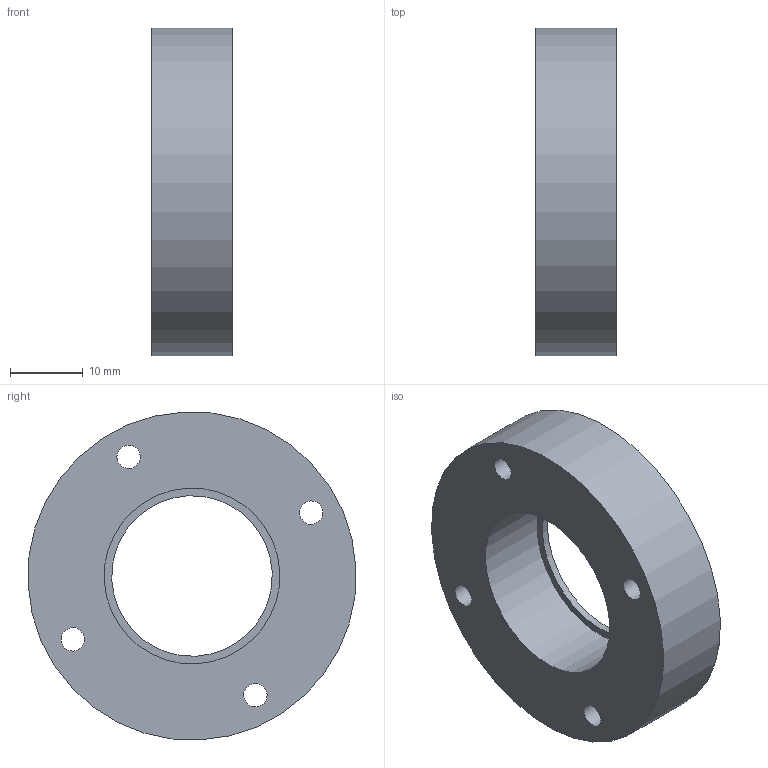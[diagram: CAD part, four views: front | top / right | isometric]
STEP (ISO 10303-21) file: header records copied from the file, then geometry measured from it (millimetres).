
FILE_DESCRIPTION(/* description */ (''),/* implementation_level */ '2;1');
FILE_NAME(/* name */ '4-18-2 Wheel carrier top.step',/* time_stamp */ '2025-05-10T22:17:59+02:00',/* author */ (''),/* organization */ (''),/* preprocessor_version */ 'ST-DEVELOPER v20.1',/* originating_system */ 'Autodesk Translation Framework v14.4.0.0',/* authorisation */ '');
FILE_SCHEMA (('AUTOMOTIVE_DESIGN { 1 0 10303 214 3 1 1 }'));
Length unit declared in the file: millimetre
Products named in the file (1): Connector top
Bounding box: 11 x 44.94 x 44.94 mm (x, y, z)
Volume: 11954 mm3; surface area: 5245.4 mm2
Topology: 1 solids, 1 shells, 18 faces, 37 edges, 22 vertices
Faces by surface type: cylinder 11, cone 4, plane 3
Full cylindrical faces by diameter (mm): 3.2 x4, 6 x4, 22 x1, 24.1 x1, 45 x1
Entity records: 539 total; most frequent: DIRECTION 97, CARTESIAN_POINT 78, ORIENTED_EDGE 74, AXIS2_PLACEMENT_3D 41, EDGE_CURVE 37, EDGE_LOOP 29, CIRCLE 22, VERTEX_POINT 22
